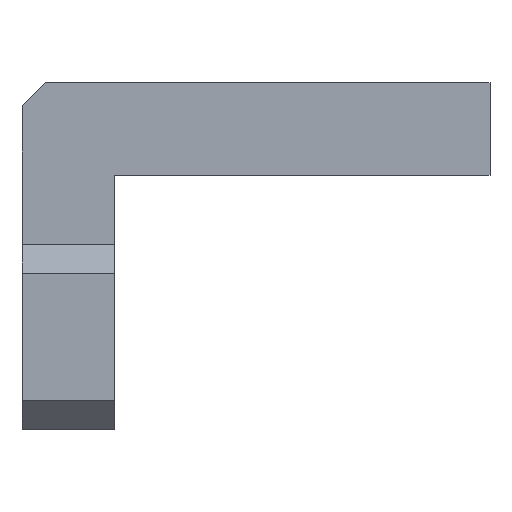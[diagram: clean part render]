
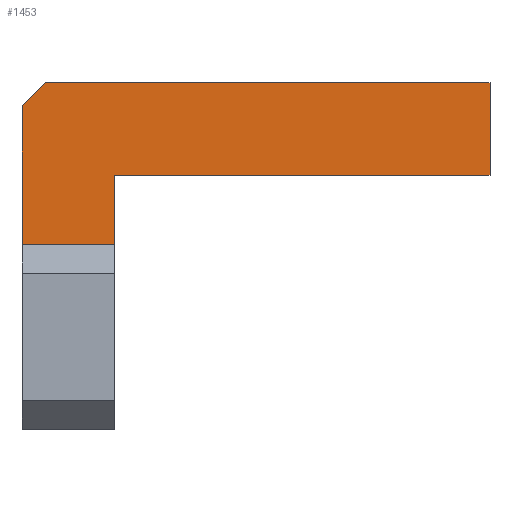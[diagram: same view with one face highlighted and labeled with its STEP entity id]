
A CAD part, left-side view. The second image highlights one B-rep face of the part: STEP entity #1453.
In plain terms, the highlighted planar face has unit normal (-1, 0, 0).
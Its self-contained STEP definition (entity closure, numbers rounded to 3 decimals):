
#5 = ORIENTED_EDGE ( 'NONE', *, *, #541, .T. ) ;
#38 = DIRECTION ( 'NONE',  ( 0., -1., 0. ) ) ;
#82 = CARTESIAN_POINT ( 'NONE',  ( 11.5, 0., 22. ) ) ;
#92 = LINE ( 'NONE', #1585, #1063 ) ;
#93 = EDGE_CURVE ( 'NONE', #1719, #203, #208, .T. ) ;
#106 = DIRECTION ( 'NONE',  ( 0., 0., -1. ) ) ;
#157 = ORIENTED_EDGE ( 'NONE', *, *, #1601, .T. ) ;
#164 = VERTEX_POINT ( 'NONE', #1533 ) ;
#167 = VECTOR ( 'NONE', #228, 1000. ) ;
#171 = CARTESIAN_POINT ( 'NONE',  ( 11.5, 0., 8. ) ) ;
#203 = VERTEX_POINT ( 'NONE', #1215 ) ;
#204 = DIRECTION ( 'NONE',  ( 0., 0., -1. ) ) ;
#208 = LINE ( 'NONE', #171, #1193 ) ;
#228 = DIRECTION ( 'NONE',  ( 0., 0., -1. ) ) ;
#284 = VECTOR ( 'NONE', #594, 1000. ) ;
#354 = CARTESIAN_POINT ( 'NONE',  ( 11.5, 6., 22. ) ) ;
#366 = CARTESIAN_POINT ( 'NONE',  ( 11.5, 0., 22. ) ) ;
#367 = VERTEX_POINT ( 'NONE', #1360 ) ;
#377 = LINE ( 'NONE', #354, #933 ) ;
#391 = EDGE_LOOP ( 'NONE', ( #1549, #5, #157, #847, #1560, #1073, #1613 ) ) ;
#406 = VERTEX_POINT ( 'NONE', #1158 ) ;
#444 = FACE_OUTER_BOUND ( 'NONE', #391, .T. ) ;
#541 = EDGE_CURVE ( 'NONE', #1956, #406, #377, .T. ) ;
#547 = CARTESIAN_POINT ( 'NONE',  ( 11.5, -32.5, 14. ) ) ;
#594 = DIRECTION ( 'NONE',  ( 0., -1., 0. ) ) ;
#605 = CARTESIAN_POINT ( 'NONE',  ( 11.5, -32.5, 22. ) ) ;
#611 = DIRECTION ( 'NONE',  ( 1., 0., 0. ) ) ;
#693 = VERTEX_POINT ( 'NONE', #605 ) ;
#824 = EDGE_CURVE ( 'NONE', #693, #367, #92, .T. ) ;
#827 = DIRECTION ( 'NONE',  ( 0., 0.707, -0.707 ) ) ;
#847 = ORIENTED_EDGE ( 'NONE', *, *, #93, .T. ) ;
#933 = VECTOR ( 'NONE', #827, 1000. ) ;
#972 = DIRECTION ( 'NONE',  ( 0., 0., -1. ) ) ;
#1063 = VECTOR ( 'NONE', #204, 1000. ) ;
#1073 = ORIENTED_EDGE ( 'NONE', *, *, #1154, .F. ) ;
#1085 = AXIS2_PLACEMENT_3D ( 'NONE', #366, #611, #106 ) ;
#1110 = LINE ( 'NONE', #82, #284 ) ;
#1123 = PLANE ( 'NONE',  #1085 ) ;
#1154 = EDGE_CURVE ( 'NONE', #367, #164, #1444, .T. ) ;
#1158 = CARTESIAN_POINT ( 'NONE',  ( 11.5, 8., 20. ) ) ;
#1193 = VECTOR ( 'NONE', #38, 1000. ) ;
#1215 = CARTESIAN_POINT ( 'NONE',  ( 11.5, 0., 8. ) ) ;
#1360 = CARTESIAN_POINT ( 'NONE',  ( 11.5, -32.5, 14. ) ) ;
#1366 = EDGE_CURVE ( 'NONE', #1956, #693, #1110, .T. ) ;
#1370 = VECTOR ( 'NONE', #1784, 1000. ) ;
#1374 = LINE ( 'NONE', #1954, #167 ) ;
#1405 = EDGE_CURVE ( 'NONE', #164, #203, #1374, .T. ) ;
#1438 = VECTOR ( 'NONE', #972, 1000. ) ;
#1444 = LINE ( 'NONE', #547, #1370 ) ;
#1453 = ADVANCED_FACE ( 'NONE', ( #444 ), #1123, .F. ) ;
#1533 = CARTESIAN_POINT ( 'NONE',  ( 11.5, 0., 14. ) ) ;
#1549 = ORIENTED_EDGE ( 'NONE', *, *, #1366, .F. ) ;
#1560 = ORIENTED_EDGE ( 'NONE', *, *, #1405, .F. ) ;
#1585 = CARTESIAN_POINT ( 'NONE',  ( 11.5, -32.5, 22. ) ) ;
#1601 = EDGE_CURVE ( 'NONE', #406, #1719, #1651, .T. ) ;
#1613 = ORIENTED_EDGE ( 'NONE', *, *, #824, .F. ) ;
#1651 = LINE ( 'NONE', #1880, #1438 ) ;
#1714 = CARTESIAN_POINT ( 'NONE',  ( 11.5, 6., 22. ) ) ;
#1719 = VERTEX_POINT ( 'NONE', #1927 ) ;
#1784 = DIRECTION ( 'NONE',  ( 0., 1., 0. ) ) ;
#1880 = CARTESIAN_POINT ( 'NONE',  ( 11.5, 8., 22. ) ) ;
#1927 = CARTESIAN_POINT ( 'NONE',  ( 11.5, 8., 8. ) ) ;
#1954 = CARTESIAN_POINT ( 'NONE',  ( 11.5, 0., 22. ) ) ;
#1956 = VERTEX_POINT ( 'NONE', #1714 ) ;
